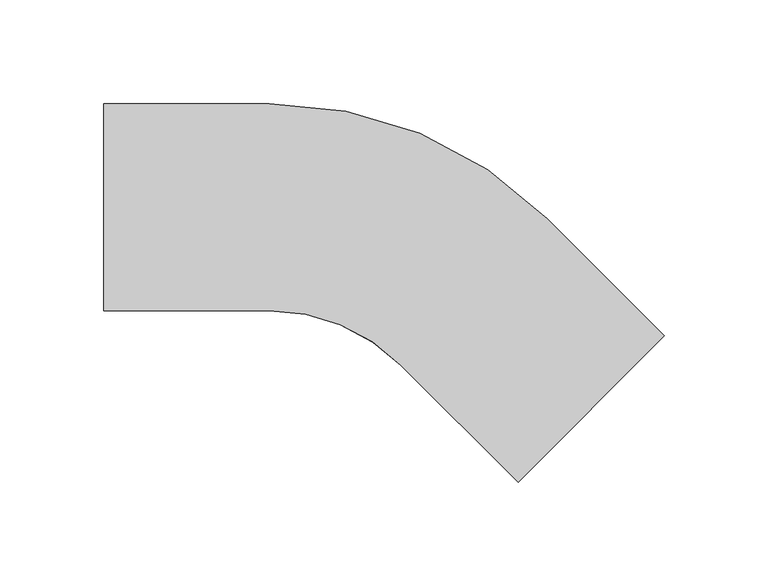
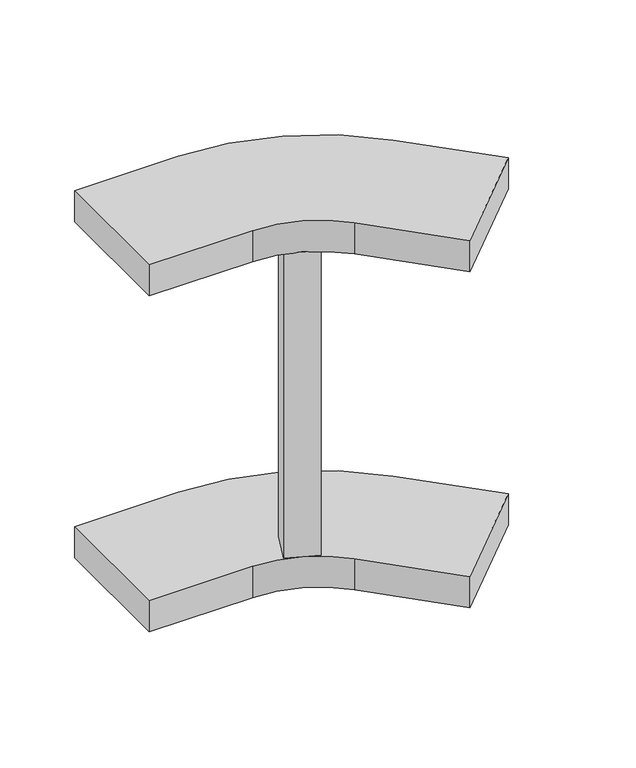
"""IFC4 building model written with IfcOpenShell, lengths in millimetres: cable carrier fitting geometry, Common_はしご垂直外側曲げ : 03 強電_低圧."""

import ifcopenshell
import ifcopenshell.guid

model = None  # the IFC model being written
_history = None  # IfcOwnerHistory: only IFC2X3 demands one
_inside = {}  # id of a spatial element -> (the spatial element, [elements in it])
_under = {}  # id of a project, library or spatial element -> (it, [spatial elements below it])
_declared = {}  # id of a project -> (the project, [libraries it declares])
_typed = {}  # id of a type object -> (the type object, [elements of that type])
_made_of = {}  # id of a material, layer set ... -> (it, [elements and type objects made of it])


def new_model(schema):
    """Start an empty IFC model of exactly this schema.

    Asked for "IFC4X3", IfcOpenShell would pick the latest addendum, in which some entities
    have other attributes; the version numbers below select the first issue.
    IFC2X3 requires an IfcOwnerHistory on every rooted entity: one is made here for all.
    """
    global model, _history
    if schema == "IFC4X3":
        model = ifcopenshell.file(schema_version=(4, 3, 0, 0))
    else:
        model = ifcopenshell.file(schema=schema)
    _inside.clear()
    _under.clear()
    _declared.clear()
    _typed.clear()
    _made_of.clear()
    _history = None
    if model.schema == "IFC2X3":
        org = make("IfcOrganization", Name="unknown")
        user = make(
            "IfcPersonAndOrganization",
            ThePerson=make("IfcPerson", FamilyName="unknown"),
            TheOrganization=org,
        )
        app = make(
            "IfcApplication",
            ApplicationDeveloper=org,
            Version="unknown",
            ApplicationFullName="unknown",
            ApplicationIdentifier="unknown",
        )
        _history = make(
            "IfcOwnerHistory",
            OwningUser=user,
            OwningApplication=app,
            ChangeAction="ADDED",
            CreationDate=0,
        )
    return model


def make(cls, **values):
    """One entity of the class cls with the attributes given. An attribute that is None is left unset."""
    return model.create_entity(
        cls, **{name: value for name, value in values.items() if value is not None}
    )


def rooted(cls, **values):
    """An entity with a GlobalId (a new one), such as an element, a storey or a relation."""
    return make(cls, GlobalId=ifcopenshell.guid.new(), OwnerHistory=_history, **values)


def si_unit(unit_type, name, prefix=None):
    """IfcSIUnit, for example si_unit("LENGTHUNIT", "METRE", prefix="MILLI")."""
    return make("IfcSIUnit", UnitType=unit_type, Prefix=prefix, Name=name)


def assignment(units):
    """IfcUnitAssignment: the units of a project."""
    return None if units is None else make("IfcUnitAssignment", Units=units)


def point(xyz):
    """IfcCartesianPoint."""
    return None if xyz is None else make("IfcCartesianPoint", Coordinates=xyz)


def direction(xyz):
    """IfcDirection."""
    return None if xyz is None else make("IfcDirection", DirectionRatios=xyz)


def frame(location, z_axis=None, x_axis=None):
    """IfcAxis2Placement3D, a coordinate frame: its origin and axes. An axis left out is left unset."""
    return make(
        "IfcAxis2Placement3D",
        Location=point(location),
        Axis=direction(z_axis),
        RefDirection=direction(x_axis),
    )


def frame_2d(location, x_axis=None):
    """IfcAxis2Placement2D, a coordinate frame in the plane: its origin and x axis."""
    return make(
        "IfcAxis2Placement2D", Location=point(location), RefDirection=direction(x_axis)
    )


def origin():
    """The frame at (0, 0, 0) with its axes left unset."""
    return frame((0.0, 0.0, 0.0))


def place(relative_to, where):
    """IfcLocalPlacement: puts the frame where relative to a parent placement (None: the world)."""
    return make(
        "IfcLocalPlacement", PlacementRelTo=relative_to, RelativePlacement=where
    )


def context(
    kind, dimensions, precision=None, world=None, true_north=None, identifier=None
):
    """IfcGeometricRepresentationContext, for example the 3D "Model" context."""
    return make(
        "IfcGeometricRepresentationContext",
        ContextIdentifier=identifier,
        ContextType=kind,
        CoordinateSpaceDimension=dimensions,
        Precision=precision,
        WorldCoordinateSystem=world,
        TrueNorth=true_north,
    )


def project(units=None, contexts=None):
    """IfcProject with its units and contexts."""
    return rooted(
        "IfcProject",
        Name="project",
        RepresentationContexts=contexts,
        UnitsInContext=assignment(units),
    )


def spatial(cls, under=None, at=None, **own):
    """A site, building, storey or space (cls), placed at a placement, below another one or the project."""
    s = rooted(cls, ObjectPlacement=at, **own)
    if under is not None:
        _under.setdefault(under.id(), (under, []))[1].append(s)
    return s


def polyline(points):
    """IfcPolyline through the points."""
    return make("IfcPolyline", Points=[point(p) for p in points])


def circle_curve(where, radius):
    """IfcCircle in the frame where."""
    return make("IfcCircle", Position=where, Radius=radius)


def trimmed(basis, trim1, trim2, sense, master):
    """IfcTrimmedCurve: the piece of a basis curve between two trims."""
    return make(
        "IfcTrimmedCurve",
        BasisCurve=basis,
        Trim1=trim1,
        Trim2=trim2,
        SenseAgreement=sense,
        MasterRepresentation=master,
    )


def segment(curve, same_sense, transition):
    """IfcCompositeCurveSegment."""
    return make(
        "IfcCompositeCurveSegment",
        Transition=transition,
        SameSense=same_sense,
        ParentCurve=curve,
    )


def composite_curve(segments, self_intersect=None):
    """IfcCompositeCurve: segments joined end to end."""
    return make("IfcCompositeCurve", Segments=segments, SelfIntersect=self_intersect)


def outline(outer, holes=None, kind="AREA"):
    """IfcArbitraryClosedProfileDef: a profile drawn as a closed curve; with holes, ...WithVoids."""
    if holes is None:
        return make("IfcArbitraryClosedProfileDef", ProfileType=kind, OuterCurve=outer)
    return make(
        "IfcArbitraryProfileDefWithVoids",
        ProfileType=kind,
        OuterCurve=outer,
        InnerCurves=holes,
    )


def extrude(swept, where, along, depth):
    """IfcExtrudedAreaSolid: the profile swept, set in the frame where, extruded along a direction by depth."""
    return make(
        "IfcExtrudedAreaSolid",
        SweptArea=swept,
        Position=where,
        ExtrudedDirection=direction(along),
        Depth=depth,
    )


def shape(context_of_items, identifier, shape_type, items):
    """IfcShapeRepresentation: the items that make up one representation, for example the "Body"."""
    return make(
        "IfcShapeRepresentation",
        ContextOfItems=context_of_items,
        RepresentationIdentifier=identifier,
        RepresentationType=shape_type,
        Items=items,
    )


def source(mapping_origin, context_of_items, identifier, shape_type, items):
    """IfcRepresentationMap: a shape defined once, which mapped items show again and again."""
    return make(
        "IfcRepresentationMap",
        MappingOrigin=mapping_origin,
        MappedRepresentation=shape(context_of_items, identifier, shape_type, items),
    )


def transform(
    local_origin,
    x_axis=None,
    y_axis=None,
    z_axis=None,
    scale=None,
    scale2=None,
    scale3=None,
    uniform=True,
):
    """IfcCartesianTransformationOperator3D, or its non-uniform kind. x_axis, y_axis, z_axis: its Axis1, 2, 3."""
    if uniform:
        return make(
            "IfcCartesianTransformationOperator3D",
            Axis1=direction(x_axis),
            Axis2=direction(y_axis),
            LocalOrigin=point(local_origin),
            Scale=scale,
            Axis3=direction(z_axis),
        )
    return make(
        "IfcCartesianTransformationOperator3DnonUniform",
        Axis1=direction(x_axis),
        Axis2=direction(y_axis),
        LocalOrigin=point(local_origin),
        Scale=scale,
        Axis3=direction(z_axis),
        Scale2=scale2,
        Scale3=scale3,
    )


def mapped(mapping_source, mapping_target):
    """IfcMappedItem: shows the shape of a source again, moved by a transform."""
    return make(
        "IfcMappedItem", MappingSource=mapping_source, MappingTarget=mapping_target
    )


def made_of(thing, what):
    """Note that an element or type object is made of a material, layer set ...; save() writes the relation."""
    if what is not None:
        _made_of.setdefault(what.id(), (what, []))[1].append(thing)
    return thing


def element(
    cls,
    number,
    at=None,
    inside=None,
    cuts=None,
    type_object=None,
    material=None,
    context=None,
    identifier="Body",
    shape_type=None,
    held_by="IfcProductDefinitionShape",
    body=None,
    shapes=None,
    **own,
):
    """One element of the class cls, such as IfcWall. Its Tag is "e" and its number.

    at: its placement. inside: the storey or other place that contains it. cuts: it is an
    opening in that element (IfcRelVoidsElement). A single representation is given by context,
    identifier, shape_type and body (its items); several are given by shapes. held_by: the class
    of the entity that holds the representations. save() writes the other relations.
    """
    e = rooted(cls, Tag="e%d" % number, ObjectPlacement=at, **own)
    if body is not None:
        shapes = [shape(context, identifier, shape_type, body)]
    if shapes is not None:
        e.Representation = make(held_by, Representations=shapes)
    if inside is not None:
        _inside.setdefault(inside.id(), (inside, []))[1].append(e)
    if cuts is not None:
        rooted(
            "IfcRelVoidsElement", RelatingBuildingElement=cuts, RelatedOpeningElement=e
        )
    if type_object is not None:
        _typed.setdefault(type_object.id(), (type_object, []))[1].append(e)
    return made_of(e, material)


def aggregate(whole, parts):
    """IfcRelAggregates: a whole, such as a stair, and the parts it consists of."""
    return rooted("IfcRelAggregates", RelatingObject=whole, RelatedObjects=parts)


def save(model, path):
    """Write the relations noted so far, then the file.

    IfcRelAggregates (storeys below a building ...), IfcRelContainedInSpatialStructure (elements
    in a storey), IfcRelDefinesByType, IfcRelAssociatesMaterial and IfcRelDeclares: one each for
    every whole, place, type object, material and project.
    """
    for whole, parts in _under.values():
        aggregate(whole, parts)
    for where, things in _inside.values():
        rooted(
            "IfcRelContainedInSpatialStructure",
            RelatedElements=things,
            RelatingStructure=where,
        )
    for kind, things in _typed.values():
        rooted("IfcRelDefinesByType", RelatedObjects=things, RelatingType=kind)
    for what, things in _made_of.values():
        rooted("IfcRelAssociatesMaterial", RelatedObjects=things, RelatingMaterial=what)
    for by, libraries in _declared.values():
        rooted("IfcRelDeclares", RelatingContext=by, RelatedDefinitions=libraries)
    model.write(path)


def cable_carrier_fitting_e2e3e5ec(model_context):
    return source(origin(), model_context, "Body", "SweptSolid", [
        extrude(outline(polyline([(-11.8151198, -61.7109217), (-35.2816599, -51.9907625), (-25.5615007, -28.5242224), (-2.0949606, -38.2443815), (-11.8151198, -61.7109217)])), frame((0.0, 0.0, -124.6), z_axis=(0.0, 0.0, 1.0), x_axis=(1.0, 0.0, 0.0)), (0.0, 0.0, 1.0), 249.2),
        extrude(outline(composite_curve([segment(polyline([(-137.9898987, 50.0), (-57.9898987, 50.0)]), True, "CONTINUOUS"), segment(trimmed(circle_curve(frame_2d((-57.9898987, -140.0)), 190.0), [point((-57.9898987, 50.0))], [point((76.3603897, -5.6497116))], False, "CARTESIAN"), True, "CONTINUOUS"), segment(polyline([(76.3603897, -5.6497116), (132.9289322, -62.2182541), (62.2182541, -132.9289322), (5.6497116, -76.3603897)]), True, "CONTINUOUS"), segment(trimmed(circle_curve(frame_2d((-57.9898987, -140.0)), 90.0), [point((5.6497116, -76.3603897))], [point((-57.9898987, -50.0))], True, "CARTESIAN"), True, "CONTINUOUS"), segment(polyline([(-57.9898987, -50.0), (-137.9898987, -50.0), (-137.9898987, 50.0)]), True, "CONTINUOUS")], self_intersect=False)), frame((0.0, 0.0, 124.6), z_axis=(0.0, 0.0, 1.0), x_axis=(1.0, 0.0, 0.0)), (0.0, 0.0, 1.0), 25.4),
        extrude(outline(composite_curve([segment(polyline([(-137.9898987, 50.0), (-57.9898987, 50.0)]), True, "CONTINUOUS"), segment(trimmed(circle_curve(frame_2d((-57.9898987, -140.0)), 190.0), [point((-57.9898987, 50.0))], [point((76.3603897, -5.6497116))], False, "CARTESIAN"), True, "CONTINUOUS"), segment(polyline([(76.3603897, -5.6497116), (132.9289322, -62.2182541), (62.2182541, -132.9289322), (5.6497116, -76.3603897)]), True, "CONTINUOUS"), segment(trimmed(circle_curve(frame_2d((-57.9898987, -140.0)), 90.0), [point((5.6497116, -76.3603897))], [point((-57.9898987, -50.0))], True, "CARTESIAN"), True, "CONTINUOUS"), segment(polyline([(-57.9898987, -50.0), (-137.9898987, -50.0), (-137.9898987, 50.0)]), True, "CONTINUOUS")], self_intersect=False)), frame((0.0, 0.0, -150.0), z_axis=(0.0, 0.0, 1.0), x_axis=(1.0, 0.0, 0.0)), (0.0, 0.0, 1.0), 25.4),
    ])


if __name__ == "__main__":
    model = new_model("IFC4")
    model_context = context("Model", 3, world=origin())
    ifc_project = project(units=[si_unit("LENGTHUNIT", "METRE", prefix="MILLI")], contexts=[model_context])
    site = spatial("IfcSite", under=ifc_project)
    building = spatial("IfcBuilding", under=site)
    placement = place(None, origin())
    cable_carrier_fitting_shape = cable_carrier_fitting_e2e3e5ec(model_context)
    element("IfcCableCarrierFitting", 1, ObjectType="Common_はしご垂直外側曲げ : 03 強電_低圧", at=placement, inside=building, context=model_context, shape_type="MappedRepresentation", body=[
        mapped(cable_carrier_fitting_shape, transform((0.0, 0.0, 0.0), x_axis=(1.0, 0.0, 0.0), y_axis=(0.0, 1.0, 0.0), z_axis=(0.0, 0.0, 1.0))),
    ])
    save(model, "model.ifc")
